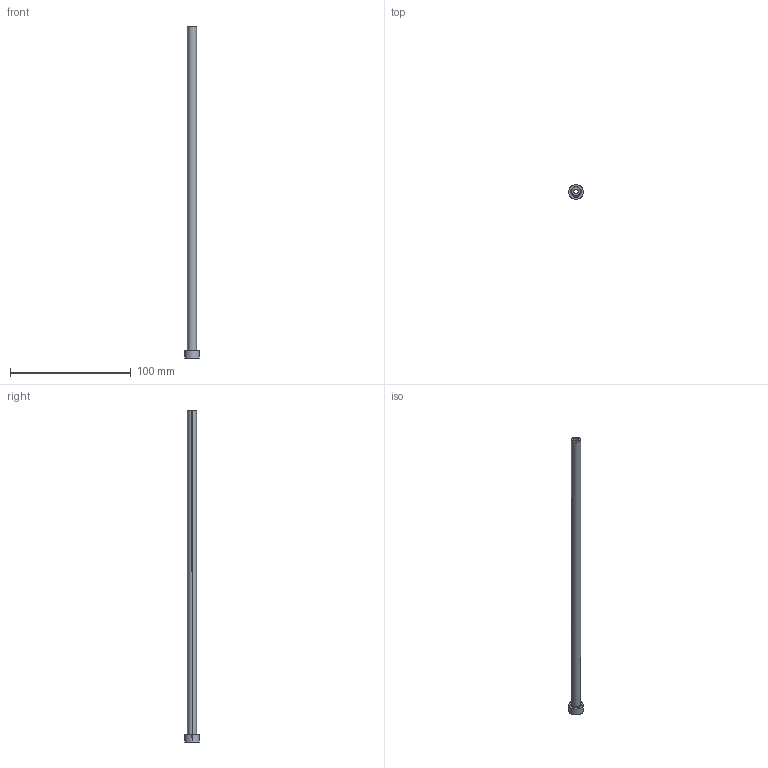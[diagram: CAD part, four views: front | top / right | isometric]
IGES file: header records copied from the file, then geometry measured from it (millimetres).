
Start section: SolidWorks IGES file using analytic representation for surfaces
Global section: file name: D:\Ref Drgs\JES Sleeve\25-45_275\JES-4-75-275\JES-4-75-275.IGS; native system: SolidWorks 2017; preprocessor: SolidWorks 2017; author: RK; date: 170623.122401; units: millimetre
Bounding box: 12 x 12 x 275 mm (x, y, z)
Surface area: 10484.5 mm2 (no closed solid volume)
Topology: 0 solids, 0 shells, 17 faces, 248 edges, 248 vertices
Faces by surface type: revolution 12, bspline 5
